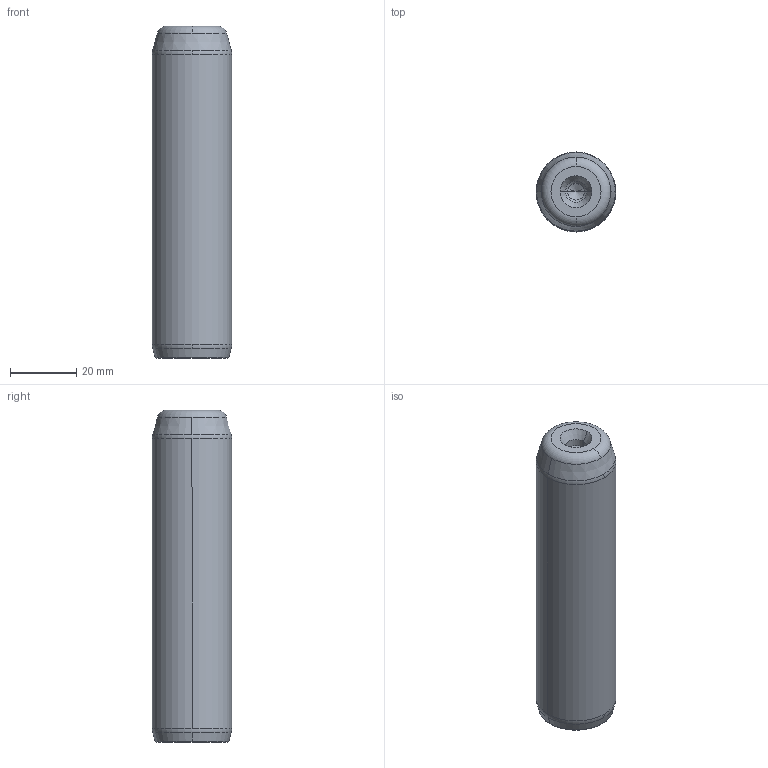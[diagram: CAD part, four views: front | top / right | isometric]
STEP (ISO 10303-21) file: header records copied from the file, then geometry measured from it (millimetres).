
FILE_DESCRIPTION((''),'2;1');
FILE_NAME('P10_024_100.stp','2008-12-23T14:33:51',(''),(''),'Mechanical Desktop 2009','Mechanical Desktop 2009',', , ');
FILE_SCHEMA(('CONFIG_CONTROL_DESIGN'));
Length unit declared in the file: millimetre
Products named in the file (5): Product; ProductAA; blmdl1; ProductA; blmdl1A
Assembly tree (2 placements, depth 3):
  Product
    ProductAA
      blmdl1
  ProductA
  blmdl1A
Bounding box: 24 x 24 x 100 mm (x, y, z)
Volume: 43905.7 mm3; surface area: 8476.6 mm2
Topology: 1 solids, 1 shells, 26 faces, 66 edges, 41 vertices
Faces by surface type: cone 10, torus 8, cylinder 6, plane 2
Entity records: 1012 total; most frequent: DIRECTION 170, CARTESIAN_POINT 134, ORIENTED_EDGE 128, AXIS2_PLACEMENT_3D 77, EDGE_CURVE 64, CIRCLE 48, VERTEX_POINT 41, EDGE_LOOP 27
